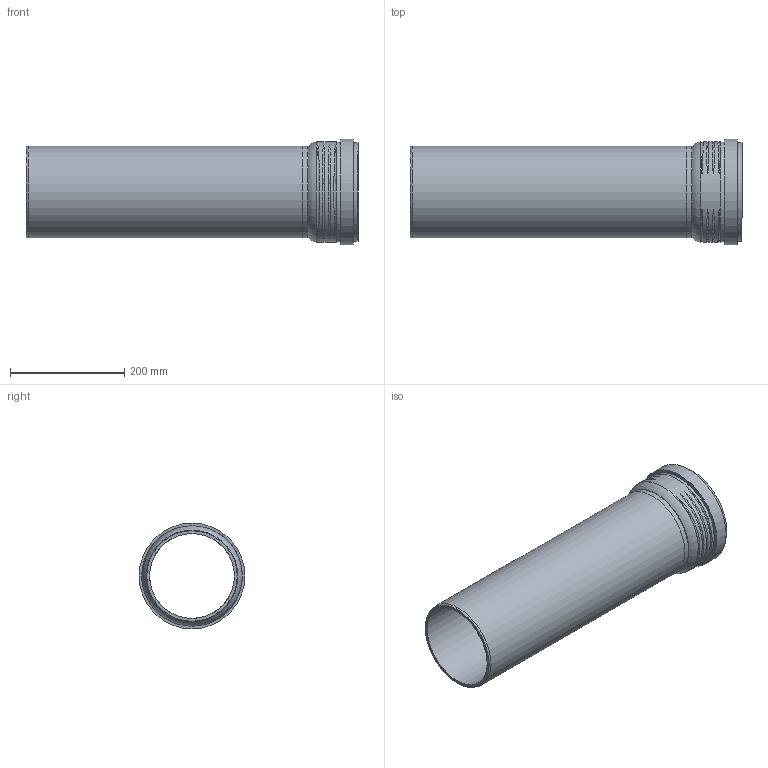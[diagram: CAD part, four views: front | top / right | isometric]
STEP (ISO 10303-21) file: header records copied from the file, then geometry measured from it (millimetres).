
FILE_DESCRIPTION(/* description */ (''),/* implementation_level */ '2;1');
FILE_NAME(/* name */ 'H:\Geberit-Teile\Export\PP_Rohr\stp\393702.stp',/* time_stamp */ '2017-02-13T16:10:31+01:00',/* author */ ('seihe2'),/* organization */ (''),/* preprocessor_version */ 'ST-DEVELOPER v15.2',/* originating_system */ 'Autodesk Inventor 2014',/* authorisation */ '');
FILE_SCHEMA (('AUTOMOTIVE_DESIGN { 1 0 10303 214 3 1 1 }'));
Length unit declared in the file: millimetre
Products named in the file (1): 393702
Bounding box: 580.6 x 184.86 x 184.86 mm (x, y, z)
Volume: 1765892.7 mm3; surface area: 609637 mm2
Topology: 2 solids, 2 shells, 38 faces, 79 edges, 54 vertices
Faces by surface type: torus 18, cylinder 10, plane 8, cone 2
Full cylindrical faces by diameter (mm): 148.25 x2, 160.25 x2, 161.4 x1, 164.8 x1, 172.2 x1, 174.6 x1, 175.6 x1, 184.86 x1
Entity records: 2318 total; most frequent: CARTESIAN_POINT 1552, DIRECTION 128, ORIENTED_EDGE 118, EDGE_LOOP 70, AXIS2_PLACEMENT_3D 64, EDGE_CURVE 59, VERTEX_POINT 53, STYLED_ITEM 40
